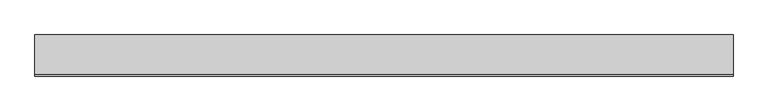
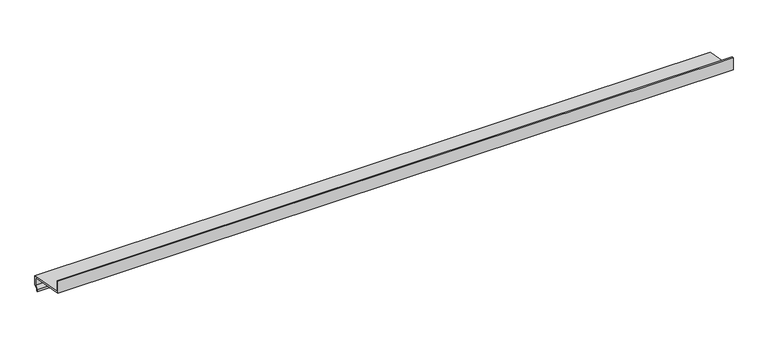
"""IFC4 building model written with IfcOpenShell, lengths in millimetres: proxy geometry, Карниз4 : Карниз."""

from ifc_helpers import new_model, si_unit, frame, origin, place, context, project, spatial, polyline, outline, extrude, source, transform, mapped, element, save


def generic_models_f3d8bb71(model_context):
    return source(origin(), model_context, "Body", "SweptSolid", [
        extrude(outline(polyline([(27250.0, 114.9877934), (27250.0, 144.9877934), (27253.0, 144.9877934), (27253.0, 117.5050923), (27344.7848515, 101.3209465), (27344.7848515, 79.5093488), (27338.0, 72.7244973), (27338.0, 67.7244973), (27335.0, 67.7244973), (27335.0, 72.7244973), (27341.7848515, 79.5093488), (27341.7848515, 98.8036476), (27250.0, 114.9877934)])), frame((6279.9972865, 0.0, 0.0), z_axis=(1.0, 0.0, 0.0), x_axis=(0.0, 1.0, 0.0)), (0.0, 0.0, 1.0), 1610.0024648),
    ])


if __name__ == "__main__":
    model = new_model("IFC4")
    model_context = context("Model", 3, world=origin())
    ifc_project = project(units=[si_unit("LENGTHUNIT", "METRE", prefix="MILLI")], contexts=[model_context])
    site = spatial("IfcSite", under=ifc_project)
    building = spatial("IfcBuilding", under=site)
    placement = place(None, origin())
    generic_models_shape = generic_models_f3d8bb71(model_context)
    element("IfcBuildingElementProxy", 1, Name="Карниз4 : Карниз", ObjectType="Карниз4 : Карниз", at=placement, inside=building, context=model_context, shape_type="MappedRepresentation", body=[
        mapped(generic_models_shape, transform((0.0, 0.0, 0.0), x_axis=(1.0, 0.0, 0.0), y_axis=(0.0, 1.0, 0.0), z_axis=(0.0, 0.0, 1.0))),
    ])
    save(model, "model.ifc")
